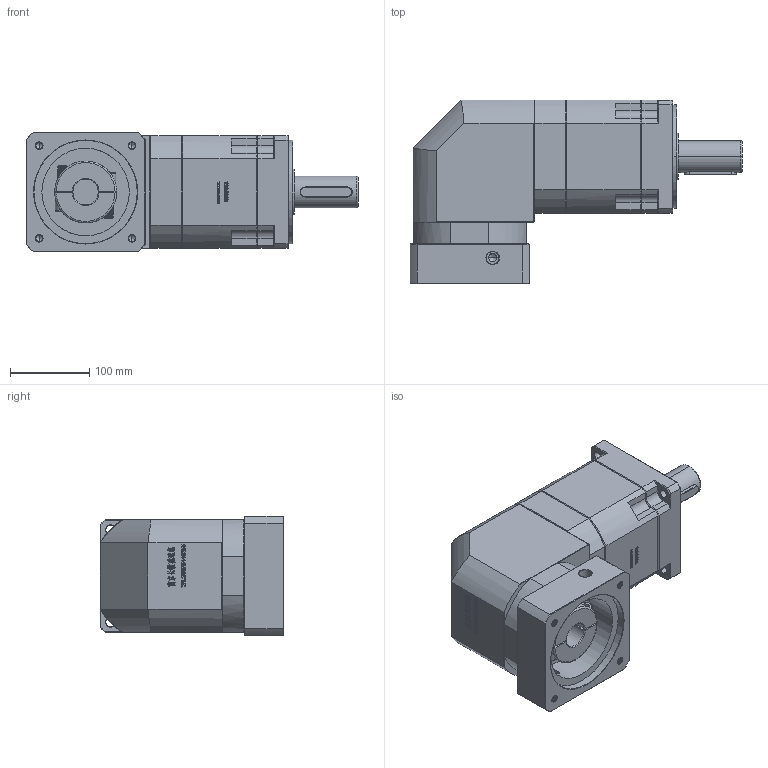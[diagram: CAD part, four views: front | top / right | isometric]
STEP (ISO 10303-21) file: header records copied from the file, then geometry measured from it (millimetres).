
FILE_DESCRIPTION (( 'STEP AP214' ), '1' );
FILE_NAME ('ZBR142A-D40-L3-32-130-165-M10.step', '2023-03-18T09:23:55', ( '' ), ( '' ), 'SwSTEP 2.0', 'SolidWorks 2016', '' );
FILE_SCHEMA (( 'AUTOMOTIVE_DESIGN' ));
Length unit declared in the file: millimetre
Products named in the file (1): ZBR142A-D40-L3-32-130-165-M10
Bounding box: 417.7 x 231 x 150 mm (x, y, z)
Volume: 7009485.6 mm3; surface area: 441254.5 mm2
Topology: 6 solids, 6 shells, 2938 faces, 7771 edges, 4982 vertices
Faces by surface type: plane 1552, bspline 583, cylinder 428, cone 340, torus 35
Entity records: 164822 total; most frequent: CARTESIAN_POINT 64449, ORIENTED_EDGE 15482, DIRECTION 11745, EDGE_CURVE 7741, LINE 5239, VECTOR 5239, VERTEX_POINT 4982, AXIS2_PLACEMENT_3D 3253
